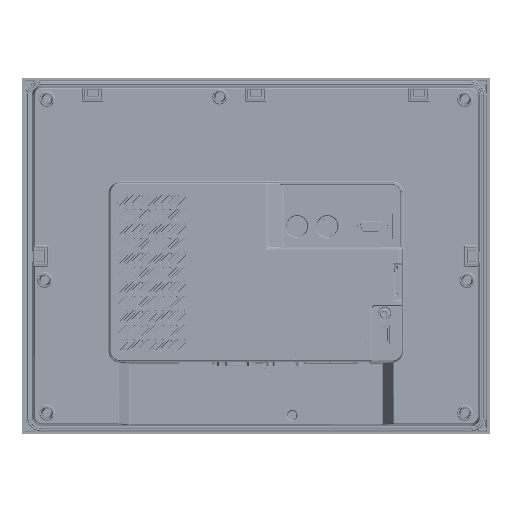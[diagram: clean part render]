
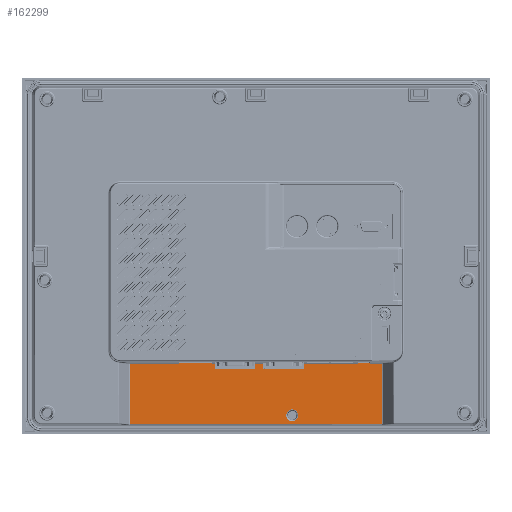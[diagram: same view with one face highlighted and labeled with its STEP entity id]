
A CAD part, front view. The second image highlights one B-rep face of the part: STEP entity #162299.
In plain terms, the highlighted planar face has unit normal (0, -1, 0).
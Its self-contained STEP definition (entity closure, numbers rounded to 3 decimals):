
#9701=CARTESIAN_POINT('',(6.131,31.,-89.449));
#9823=CARTESIAN_POINT('',(-33.869,31.,-89.449));
#10269=DIRECTION('',(0.,0.,-1.));
#10270=VECTOR('',#10269,0.546);
#10271=CARTESIAN_POINT('',(-63.798,31.,-88.903));
#10272=LINE('',#10271,#10270);
#10273=CARTESIAN_POINT('',(-63.798,31.,-89.449));
#10291=DIRECTION('',(-1.,0.,0.));
#10292=VECTOR('',#10291,27.497);
#10293=CARTESIAN_POINT('',(-36.302,31.,-88.903));
#10294=LINE('',#10293,#10292);
#10299=DIRECTION('',(1.,0.,0.));
#10300=VECTOR('',#10299,2.433);
#10301=CARTESIAN_POINT('',(-36.302,31.,-89.449));
#10302=LINE('',#10301,#10300);
#10303=DIRECTION('',(0.,0.,-1.));
#10304=VECTOR('',#10303,4.454);
#10305=CARTESIAN_POINT('',(-33.869,31.,-89.449));
#10306=LINE('',#10305,#10304);
#10307=DIRECTION('',(0.,0.,1.));
#10308=VECTOR('',#10307,4.454);
#10309=CARTESIAN_POINT('',(-0.431,31.,-93.903));
#10310=LINE('',#10309,#10308);
#10311=DIRECTION('',(1.,0.,0.));
#10312=VECTOR('',#10311,6.563);
#10313=CARTESIAN_POINT('',(-0.431,31.,-89.449));
#10314=LINE('',#10313,#10312);
#10315=DIRECTION('',(0.,0.,-1.));
#10316=VECTOR('',#10315,4.454);
#10317=CARTESIAN_POINT('',(6.131,31.,-89.449));
#10318=LINE('',#10317,#10316);
#10319=DIRECTION('',(0.,0.,1.));
#10320=VECTOR('',#10319,4.454);
#10321=CARTESIAN_POINT('',(39.579,31.,-93.903));
#10322=LINE('',#10321,#10320);
#10323=DIRECTION('',(1.,0.,0.));
#10324=VECTOR('',#10323,45.153);
#10325=CARTESIAN_POINT('',(39.579,31.,-89.449));
#10326=LINE('',#10325,#10324);
#10327=DIRECTION('',(0.,0.,1.));
#10328=VECTOR('',#10327,0.546);
#10329=CARTESIAN_POINT('',(84.731,31.,-89.449));
#10330=LINE('',#10329,#10328);
#10331=DIRECTION('',(0.,0.,-1.));
#10332=VECTOR('',#10331,0.546);
#10333=CARTESIAN_POINT('',(94.769,31.,-88.903));
#10334=LINE('',#10333,#10332);
#10335=DIRECTION('',(1.,0.,0.));
#10336=VECTOR('',#10335,9.665);
#10337=CARTESIAN_POINT('',(94.769,31.,-89.449));
#10338=LINE('',#10337,#10336);
#10339=DIRECTION('',(0.,0.,-1.));
#10340=VECTOR('',#10339,49.697);
#10341=CARTESIAN_POINT('',(104.434,31.,-89.449));
#10342=LINE('',#10341,#10340);
#10343=DIRECTION('',(-1.,0.,0.));
#10344=VECTOR('',#10343,208.868);
#10345=CARTESIAN_POINT('',(104.434,31.,
-139.146));
#10346=LINE('',#10345,#10344);
#10347=DIRECTION('',(0.,0.,1.));
#10348=VECTOR('',#10347,49.697);
#10349=CARTESIAN_POINT('',(-104.434,31.,
-139.146));
#10350=LINE('',#10349,#10348);
#10351=DIRECTION('',(1.,0.,0.));
#10352=VECTOR('',#10351,40.635);
#10353=CARTESIAN_POINT('',(-104.434,31.,-89.449));
#10354=LINE('',#10353,#10352);
#10355=DIRECTION('',(0.,0.,-1.));
#10356=VECTOR('',#10355,0.546);
#10357=CARTESIAN_POINT('',(-36.302,31.,-88.903));
#10358=LINE('',#10357,#10356);
#10359=CARTESIAN_POINT('',(30.,31.,-132.));
#10360=DIRECTION('',(0.,-1.,0.));
#10361=DIRECTION('',(-1.,0.,0.));
#10362=AXIS2_PLACEMENT_3D('',#10359,#10360,#10361);
#10364=CARTESIAN_POINT('',(30.,31.,-132.));
#10365=DIRECTION('',(0.,-1.,0.));
#10366=DIRECTION('',(1.,0.,0.));
#10367=AXIS2_PLACEMENT_3D('',#10364,#10365,#10366);
#10373=CARTESIAN_POINT('',(-36.302,31.,-89.449));
#10379=DIRECTION('',(-1.,0.,0.));
#10380=VECTOR('',#10379,33.437);
#10381=CARTESIAN_POINT('',(-0.431,31.,-93.903));
#10382=LINE('',#10381,#10380);
#10399=CARTESIAN_POINT('',(-0.431,31.,-89.449));
#10405=DIRECTION('',(-1.,0.,0.));
#10406=VECTOR('',#10405,33.447);
#10407=CARTESIAN_POINT('',(39.579,31.,-93.903));
#10408=LINE('',#10407,#10406);
#10608=CARTESIAN_POINT('',(84.731,31.,-89.449));
#10686=CARTESIAN_POINT('',(94.769,31.,-89.449));
#10711=CARTESIAN_POINT('',(104.434,31.,
-139.146));
#60707=DIRECTION('',(-1.,0.,0.));
#60708=VECTOR('',#60707,10.037);
#60709=CARTESIAN_POINT('',(94.769,31.,-88.903));
#60710=LINE('',#60709,#60708);
#127499=CARTESIAN_POINT('',(-36.302,31.,-88.903));
#127500=VERTEX_POINT('',#127499);
#127501=VERTEX_POINT('',#9823);
#127502=VERTEX_POINT('',#10373);
#127506=CARTESIAN_POINT('',(-0.431,31.,-93.903));
#127507=VERTEX_POINT('',#127506);
#127508=VERTEX_POINT('',#9701);
#127509=VERTEX_POINT('',#10399);
#127513=CARTESIAN_POINT('',(39.579,31.,-93.903));
#127514=VERTEX_POINT('',#127513);
#127519=VERTEX_POINT('',#10608);
#127520=CARTESIAN_POINT('',(39.579,31.,-89.449));
#127521=VERTEX_POINT('',#127520);
#127533=CARTESIAN_POINT('',(94.769,31.,-88.903));
#127534=VERTEX_POINT('',#127533);
#127535=CARTESIAN_POINT('',(104.434,31.,-89.449));
#127536=VERTEX_POINT('',#127535);
#127537=VERTEX_POINT('',#10686);
#128598=VERTEX_POINT('',#10711);
#128599=CARTESIAN_POINT('',(-104.434,31.,
-139.146));
#128600=VERTEX_POINT('',#128599);
#128601=CARTESIAN_POINT('',(-104.434,31.,
-89.449));
#128602=VERTEX_POINT('',#128601);
#128603=VERTEX_POINT('',#10273);
#128604=CARTESIAN_POINT('',(-33.869,31.,-93.903));
#128605=VERTEX_POINT('',#128604);
#128606=CARTESIAN_POINT('',(6.131,31.,-93.903));
#128607=VERTEX_POINT('',#128606);
#128608=CARTESIAN_POINT('',(84.731,31.,-88.903));
#128609=VERTEX_POINT('',#128608);
#128610=CARTESIAN_POINT('',(-63.798,31.,-88.903));
#128611=VERTEX_POINT('',#128610);
#128612=CARTESIAN_POINT('',(25.059,31.,-132.));
#128613=CARTESIAN_POINT('',(34.941,31.,-132.));
#128614=VERTEX_POINT('',#128612);
#128615=VERTEX_POINT('',#128613);
#162252=CARTESIAN_POINT('',(0.,31.,-114.024));
#162253=DIRECTION('',(0.,1.,0.));
#162254=DIRECTION('',(1.,0.,0.));
#162255=AXIS2_PLACEMENT_3D('',#162252,#162253,#162254);
#162256=PLANE('',#162255);
#162258=ORIENTED_EDGE('',*,*,#162257,.T.);
#162259=ORIENTED_EDGE('',*,*,#161727,.T.);
#162261=ORIENTED_EDGE('',*,*,#162260,.F.);
#162262=ORIENTED_EDGE('',*,*,#161663,.T.);
#162264=ORIENTED_EDGE('',*,*,#162263,.T.);
#162265=ORIENTED_EDGE('',*,*,#161627,.T.);
#162267=ORIENTED_EDGE('',*,*,#162266,.F.);
#162269=ORIENTED_EDGE('',*,*,#162268,.T.);
#162271=ORIENTED_EDGE('',*,*,#162270,.T.);
#162273=ORIENTED_EDGE('',*,*,#162272,.T.);
#162275=ORIENTED_EDGE('',*,*,#162274,.F.);
#162277=ORIENTED_EDGE('',*,*,#162276,.T.);
#162279=ORIENTED_EDGE('',*,*,#162278,.T.);
#162281=ORIENTED_EDGE('',*,*,#162280,.T.);
#162283=ORIENTED_EDGE('',*,*,#162282,.T.);
#162285=ORIENTED_EDGE('',*,*,#162284,.T.);
#162287=ORIENTED_EDGE('',*,*,#162286,.T.);
#162288=ORIENTED_EDGE('',*,*,#162231,.F.);
#162289=ORIENTED_EDGE('',*,*,#162246,.F.);
#162290=ORIENTED_EDGE('',*,*,#162067,.T.);
#162291=EDGE_LOOP('',(#162258,#162259,#162261,#162262,#162264,#162265,#162267,
#162269,#162271,#162273,#162275,#162277,#162279,#162281,#162283,#162285,#162287,
#162288,#162289,#162290));
#162292=FACE_OUTER_BOUND('',#162291,.F.);
#162294=ORIENTED_EDGE('',*,*,#162293,.T.);
#162296=ORIENTED_EDGE('',*,*,#162295,.T.);
#162297=EDGE_LOOP('',(#162294,#162296));
#162298=FACE_BOUND('',#162297,.F.);
#162299=ADVANCED_FACE('',(#162292,#162298),#162256,.F.);
#10363=CIRCLE('',#10362,4.941);
#10368=CIRCLE('',#10367,4.941);
#161627=EDGE_CURVE('',#127508,#128607,#10318,.T.);
#161663=EDGE_CURVE('',#127507,#127509,#10310,.T.);
#161727=EDGE_CURVE('',#127501,#128605,#10306,.T.);
#162067=EDGE_CURVE('',#127500,#127502,#10358,.T.);
#162231=EDGE_CURVE('',#128611,#128603,#10272,.T.);
#162246=EDGE_CURVE('',#127500,#128611,#10294,.T.);
#162257=EDGE_CURVE('',#127502,#127501,#10302,.T.);
#162260=EDGE_CURVE('',#127507,#128605,#10382,.T.);
#162263=EDGE_CURVE('',#127509,#127508,#10314,.T.);
#162266=EDGE_CURVE('',#127514,#128607,#10408,.T.);
#162268=EDGE_CURVE('',#127514,#127521,#10322,.T.);
#162270=EDGE_CURVE('',#127521,#127519,#10326,.T.);
#162272=EDGE_CURVE('',#127519,#128609,#10330,.T.);
#162274=EDGE_CURVE('',#127534,#128609,#60710,.T.);
#162276=EDGE_CURVE('',#127534,#127537,#10334,.T.);
#162278=EDGE_CURVE('',#127537,#127536,#10338,.T.);
#162280=EDGE_CURVE('',#127536,#128598,#10342,.T.);
#162282=EDGE_CURVE('',#128598,#128600,#10346,.T.);
#162284=EDGE_CURVE('',#128600,#128602,#10350,.T.);
#162286=EDGE_CURVE('',#128602,#128603,#10354,.T.);
#162293=EDGE_CURVE('',#128614,#128615,#10363,.T.);
#162295=EDGE_CURVE('',#128615,#128614,#10368,.T.);
